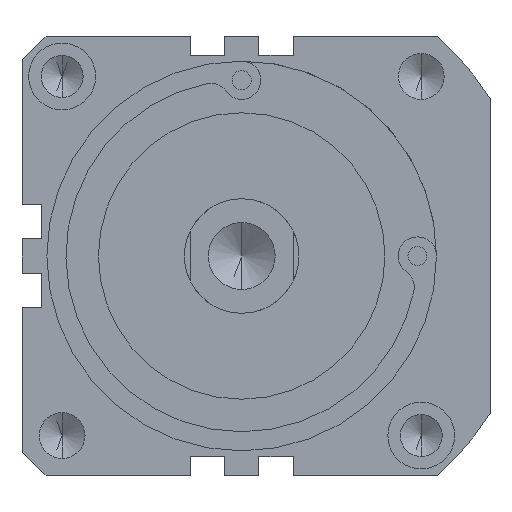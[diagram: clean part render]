
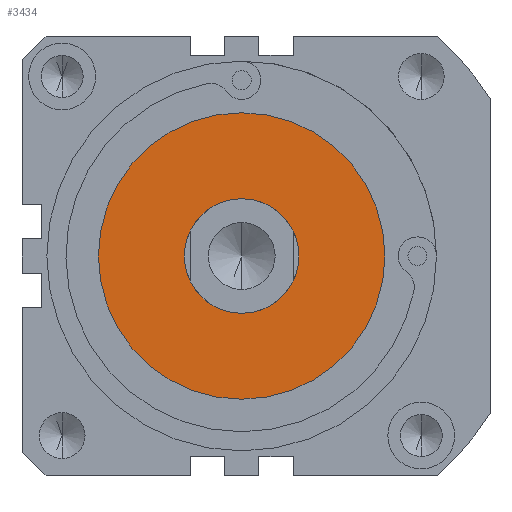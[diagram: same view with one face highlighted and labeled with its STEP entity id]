
A CAD part, front view. The second image highlights one B-rep face of the part: STEP entity #3434.
In plain terms, the highlighted planar face has unit normal (0, -1, 0) as drawn and (0, 1, 0) by its records, which use the part's own axes.
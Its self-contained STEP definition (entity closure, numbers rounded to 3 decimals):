
#52 = AXIS2_PLACEMENT_3D ( 'NONE', #1542, #748, #2614 ) ;
#402 = EDGE_CURVE ( 'NONE', #2242, #3223, #807, .T. ) ;
#451 = ORIENTED_EDGE ( 'NONE', *, *, #402, .F. ) ;
#615 = DIRECTION ( 'NONE',  ( 0., 1., 0. ) ) ;
#707 = CARTESIAN_POINT ( 'NONE',  ( 0., 0., 0. ) ) ;
#748 = DIRECTION ( 'NONE',  ( 0., 1., 0. ) ) ;
#807 = CIRCLE ( 'NONE', #1575, 15. ) ;
#871 = DIRECTION ( 'NONE',  ( 0., 0., 1. ) ) ;
#873 = AXIS2_PLACEMENT_3D ( 'NONE', #2729, #615, #871 ) ;
#1104 = FACE_BOUND ( 'NONE', #2444, .T. ) ;
#1154 = EDGE_CURVE ( 'NONE', #3425, #2071, #1369, .T. ) ;
#1178 = DIRECTION ( 'NONE',  ( 0., 1., 0. ) ) ;
#1181 = CARTESIAN_POINT ( 'NONE',  ( 0., 0., 0. ) ) ;
#1253 = CIRCLE ( 'NONE', #52, 37.5 ) ;
#1255 = DIRECTION ( 'NONE',  ( 0., 0., 1. ) ) ;
#1369 = CIRCLE ( 'NONE', #873, 37.5 ) ;
#1432 = EDGE_CURVE ( 'NONE', #2071, #3425, #1253, .T. ) ;
#1466 = CARTESIAN_POINT ( 'NONE',  ( 0., 0., 0. ) ) ;
#1467 = ORIENTED_EDGE ( 'NONE', *, *, #2847, .F. ) ;
#1542 = CARTESIAN_POINT ( 'NONE',  ( 0., 0., 0. ) ) ;
#1575 = AXIS2_PLACEMENT_3D ( 'NONE', #707, #3391, #1255 ) ;
#1692 = DIRECTION ( 'NONE',  ( 0., 1., 0. ) ) ;
#1969 = CARTESIAN_POINT ( 'NONE',  ( 0., 0., 15. ) ) ;
#1985 = PLANE ( 'NONE',  #2345 ) ;
#2071 = VERTEX_POINT ( 'NONE', #3262 ) ;
#2077 = EDGE_LOOP ( 'NONE', ( #3246, #2400 ) ) ;
#2242 = VERTEX_POINT ( 'NONE', #1969 ) ;
#2345 = AXIS2_PLACEMENT_3D ( 'NONE', #1466, #1178, #2812 ) ;
#2400 = ORIENTED_EDGE ( 'NONE', *, *, #1154, .T. ) ;
#2438 = CARTESIAN_POINT ( 'NONE',  ( 0., 0., -37.5 ) ) ;
#2444 = EDGE_LOOP ( 'NONE', ( #1467, #451 ) ) ;
#2515 = FACE_OUTER_BOUND ( 'NONE', #2077, .T. ) ;
#2614 = DIRECTION ( 'NONE',  ( 0., 0., 1. ) ) ;
#2729 = CARTESIAN_POINT ( 'NONE',  ( 0., 0., 0. ) ) ;
#2812 = DIRECTION ( 'NONE',  ( 0., 0., 1. ) ) ;
#2847 = EDGE_CURVE ( 'NONE', #3223, #2242, #2866, .T. ) ;
#2866 = CIRCLE ( 'NONE', #3238, 15. ) ;
#2946 = CARTESIAN_POINT ( 'NONE',  ( 0., 0., -15. ) ) ;
#3223 = VERTEX_POINT ( 'NONE', #2946 ) ;
#3238 = AXIS2_PLACEMENT_3D ( 'NONE', #1181, #1692, #3296 ) ;
#3246 = ORIENTED_EDGE ( 'NONE', *, *, #1432, .T. ) ;
#3262 = CARTESIAN_POINT ( 'NONE',  ( 0., 0., 37.5 ) ) ;
#3296 = DIRECTION ( 'NONE',  ( 0., 0., 1. ) ) ;
#3391 = DIRECTION ( 'NONE',  ( 0., 1., 0. ) ) ;
#3425 = VERTEX_POINT ( 'NONE', #2438 ) ;
#3434 = ADVANCED_FACE ( 'NONE', ( #2515, #1104 ), #1985, .T. ) ;
